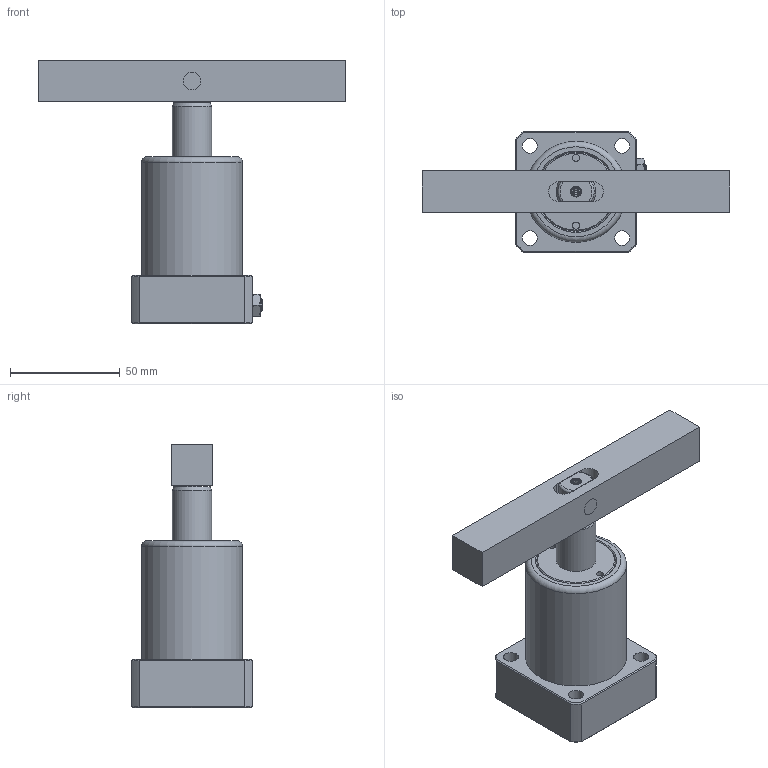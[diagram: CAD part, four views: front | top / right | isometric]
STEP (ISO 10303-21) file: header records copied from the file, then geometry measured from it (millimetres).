
FILE_DESCRIPTION(/* description */ ('Unknown'),/* implementation_level */ '2;1');
FILE_NAME(/* name */ 'HSC-MF25D-B',/* time_stamp */ '2019-05-27T16:10:09+08:00',/* author */ ('Unknown'),/* organization */ ('Unknown'),/* preprocessor_version */ 'ST-DEVELOPER v16.7',/* originating_system */ 'DEX',/* authorisation */ $);
FILE_SCHEMA (('AUTOMOTIVE_DESIGN {1 0 10303 214 3 1 1}'));
Length unit declared in the file: millimetre
Products named in the file (5): HSC-MF25D-B; HSC-MF25D-CYLINDER; HSC-2502-D-AXLE CENTRE; HSC-2502-D-FIXED PIN; HSC-25D-B
Assembly tree (4 placements, depth 2):
  HSC-MF25D-B
    HSC-MF25D-CYLINDER
    HSC-2502-D-AXLE CENTRE
    HSC-2502-D-FIXED PIN
    HSC-25D-B
Bounding box: 140 x 55 x 120 mm (x, y, z)
Volume: 196547.9 mm3; surface area: 43445.3 mm2
Topology: 4 solids, 4 shells, 139 faces, 299 edges, 184 vertices
Faces by surface type: plane 58, cylinder 28, cone 24, bspline 24, torus 5
Full cylindrical faces by diameter (mm): 3.2 x2, 5 x2, 6 x1, 6.8 x4, 8 x4, 10 x2, 18 x1, 18.001 x1, 24.601 x1, 25 x1, 46 x1
Entity records: 3917 total; most frequent: CARTESIAN_POINT 1100, DIRECTION 516, ORIENTED_EDGE 512, EDGE_CURVE 256, AXIS2_PLACEMENT_3D 220, EDGE_LOOP 204, FACE_BOUND 204, VERTEX_POINT 174
